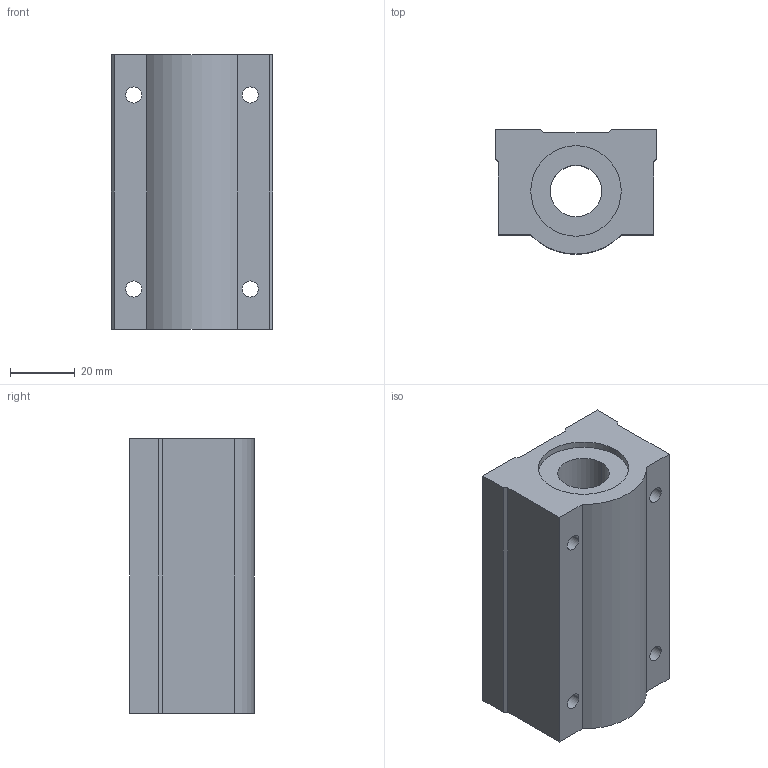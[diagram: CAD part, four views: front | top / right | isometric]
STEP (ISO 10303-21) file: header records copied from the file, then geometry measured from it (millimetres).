
FILE_DESCRIPTION((''),'2;1');
FILE_NAME('C:\Documents and Settings\ｿﾀﾀ蠑ｷ1\ｹﾙﾅﾁ ﾈｭｸ饅\ｺﾎﾇｰﾆﾄﾀﾏ\ﾁｦﾇｰ\SC__WUUN\SC16WUUN.stp','2005-06-22T11:01:35',('ｿﾀﾀ蠑ｷ1'),(''),'Autodesk Inventor 9','Autodesk Inventor 9','');
FILE_SCHEMA(('AUTOMOTIVE_DESIGN { 1 0 10303 214 1 1 1 1 }'));
Length unit declared in the file: millimetre
Products named in the file (1): SC__UUN
Bounding box: 50 x 38.5 x 85 mm (x, y, z)
Volume: 121036.5 mm3; surface area: 23531 mm2
Topology: 1 solids, 1 shells, 32 faces, 84 edges, 56 vertices
Faces by surface type: plane 17, bspline 8, cylinder 7
Entity records: 1145 total; most frequent: CARTESIAN_POINT 309, ORIENTED_EDGE 168, DIRECTION 164, EDGE_CURVE 84, VERTEX_POINT 56, AXIS2_PLACEMENT_3D 55, VECTOR 54, LINE 54
